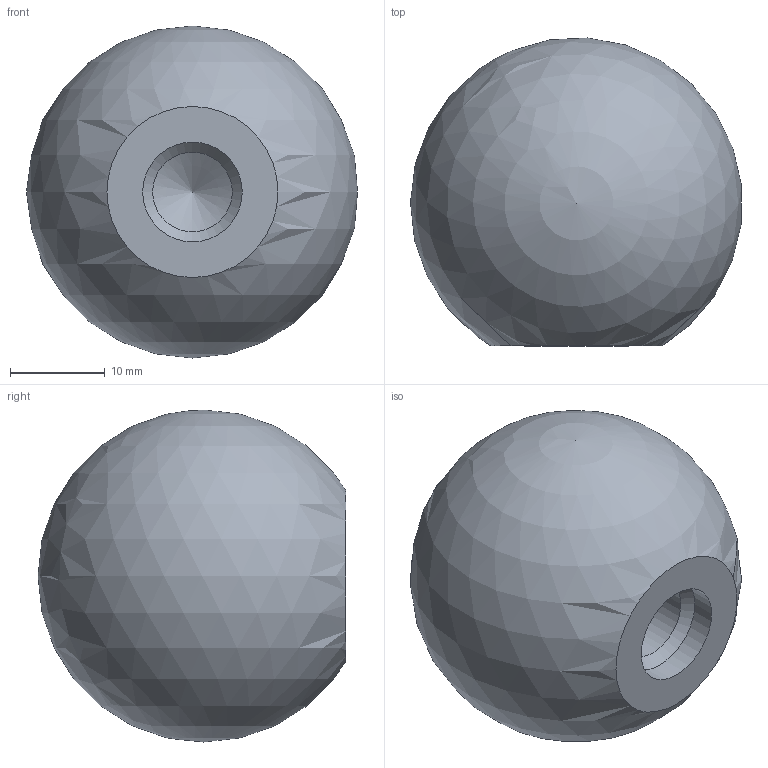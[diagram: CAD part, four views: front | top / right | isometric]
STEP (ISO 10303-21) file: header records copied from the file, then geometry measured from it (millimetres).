
FILE_DESCRIPTION (( 'STEP AP214' ), '1' );
FILE_NAME ('319-KU-35-M10-C.step', '2019-04-24T08:50:26', ( 'user' ), ( '' ), 'SwSTEP 2.0', 'SolidWorks 2019', '' );
FILE_SCHEMA (( 'AUTOMOTIVE_DESIGN' ));
Length unit declared in the file: millimetre
Products named in the file (1): 319-KU-35-M10-C
Bounding box: 34.9 x 32.46 x 35 mm (x, y, z)
Volume: 20984.2 mm3; surface area: 4314.7 mm2
Topology: 1 solids, 1 shells, 6 faces, 15 edges, 10 vertices
Faces by surface type: cone 2, cylinder 2, plane 1, sphere 1
Full cylindrical faces by diameter (mm): 8.4 x1, 10.5 x1
Entity records: 159 total; most frequent: DIRECTION 24, CARTESIAN_POINT 17, AXIS2_PLACEMENT_3D 12, ORIENTED_EDGE 10, EDGE_LOOP 10, FACE_OUTER_BOUND 8, ADVANCED_FACE 6, CIRCLE 5
